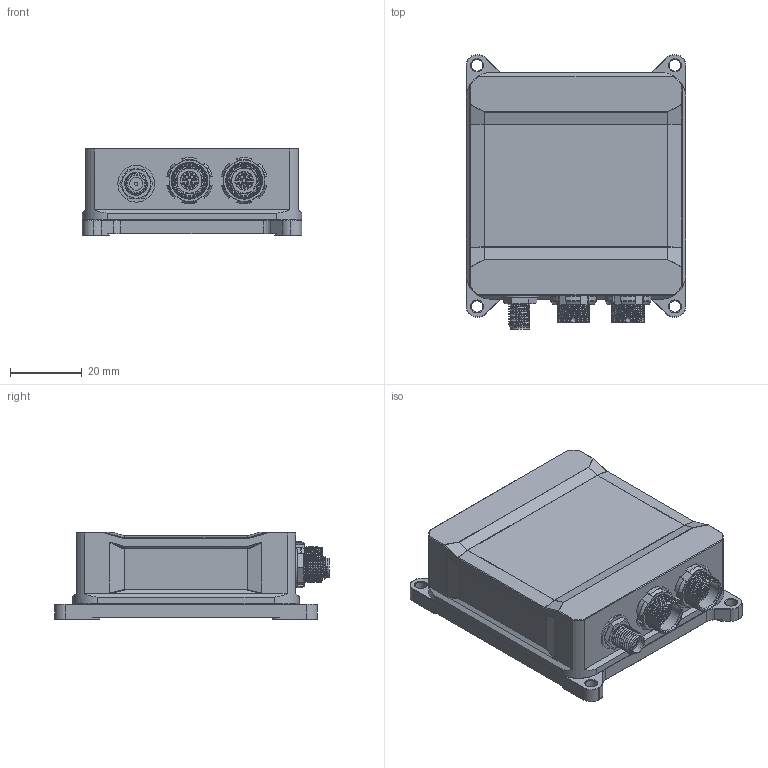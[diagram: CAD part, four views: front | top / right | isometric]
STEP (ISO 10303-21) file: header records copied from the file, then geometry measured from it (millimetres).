
FILE_DESCRIPTION(/* description */ (''),/* implementation_level */ '2;1');
FILE_NAME(/* name */ 'Beyond22_Juli2026_3D.step',/* time_stamp */ '2026-07-21T13:37:10+02:00',/* author */ (''),/* organization */ (''),/* preprocessor_version */ 'ST-DEVELOPER v20.1',/* originating_system */ 'Autodesk Translation Framework v15.8.0.0',/* authorisation */ '');
FILE_SCHEMA (('AUTOMOTIVE_DESIGN { 1 0 10303 214 3 1 1 }'));
Products named in the file (20): B22_Rendering_Q3_25; Beyond 12; Base; BOX; screws; 92703A159_NO THREADS_18-8 Stainless Steel Torx Flat Head Screws; 00160410--_ASM; TEMP_SW_STEP_MONOBLOCK_1_ASM; 00160410--_ASM_1; TEMP_SW_STEP_MONOBLOCK_1_ASM_1; TEMP_SW_STEP_MONOBLOCK_1_1; TEMP_SW_STEP_MONOBLOCK_1_2; 00058073; RFCT-SMA069-F78_rev1.0; 10.2 washer1; hex8.0 nut; O-ring; pin; ferrule; SMA ST Bulkhead Jack1
Assembly tree (25 placements, depth 4):
  B22_Rendering_Q3_25
    Beyond 12
      Base
      BOX
      screws
        92703A159_NO THREADS_18-8 Stainless Steel Torx Flat Head Screws  x4
    00160410--_ASM
      TEMP_SW_STEP_MONOBLOCK_1_ASM
        TEMP_SW_STEP_MONOBLOCK_1_1
        TEMP_SW_STEP_MONOBLOCK_1_2
    00160410--_ASM_1
      TEMP_SW_STEP_MONOBLOCK_1_ASM_1
        TEMP_SW_STEP_MONOBLOCK_1_1
        TEMP_SW_STEP_MONOBLOCK_1_2
    00058073  x2
    RFCT-SMA069-F78_rev1.0
      10.2 washer1
      hex8.0 nut
      O-ring
      pin
      ferrule
      SMA ST Bulkhead Jack1
Bounding box: 61 x 76.4 x 24.3 mm (x, y, z)
Volume: 86486.2 mm3; surface area: 26244 mm2
Topology: 18 solids, 18 shells, 1798 faces, 4591 edges, 2962 vertices
Faces by surface type: plane 594, cylinder 481, bspline 382, cone 266, torus 69, sphere 6
Full cylindrical faces by diameter (mm): 0.3 x32, 0.4 x4, 0.5 x6, 0.6 x32, 0.64 x32, 0.7 x1, 0.78 x6, 0.8 x1, 0.92 x1, 2.2 x1, 2.3 x1, 2.5 x4, 2.6 x1, 2.7 x6, 3.1 x1, 3.2 x4, 3.6 x1, 4.7 x5, 4.8 x2, 4.9 x2, 5.3 x1, 5.586 x1, 6.35 x2, 6.5 x1, 6.92 x2, 7.09 x2, 8.1 x2, 8.8 x2, 9.45 x6, 9.8 x1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
Entity records: 94625 total; most frequent: CARTESIAN_POINT 68235, ORIENTED_EDGE 5910, DIRECTION 4567, EDGE_CURVE 2955, VERTEX_POINT 1914, AXIS2_PLACEMENT_3D 1693, EDGE_LOOP 1269, LINE 1181
